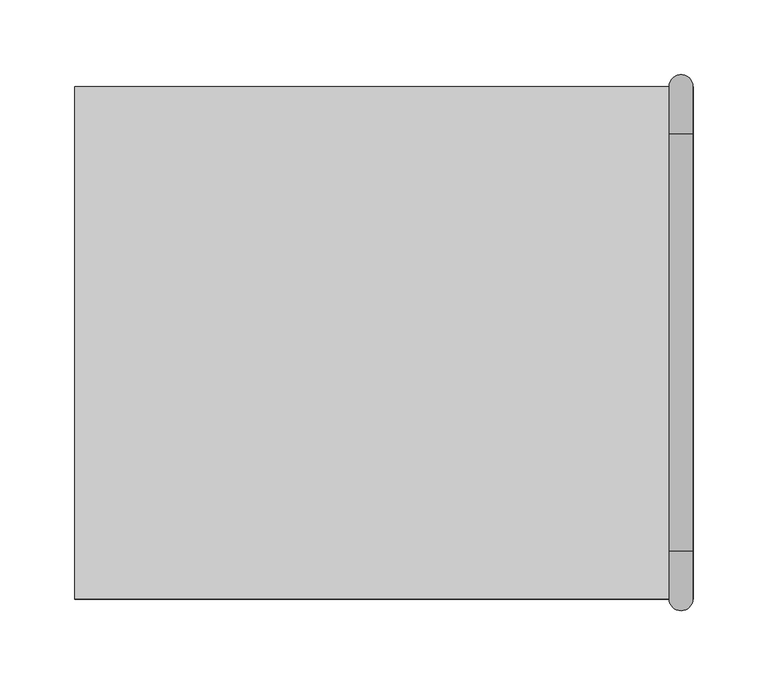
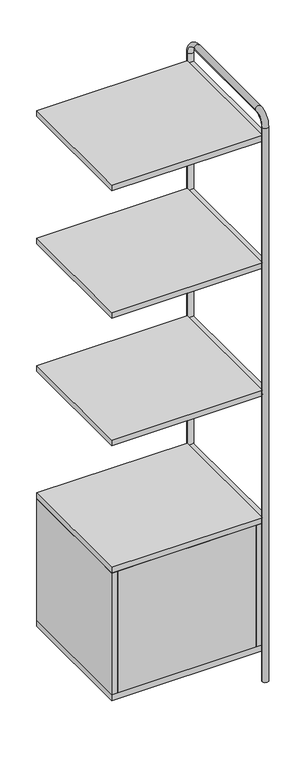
"""IFC4 building model written with IfcOpenShell, lengths in millimetres: furniture geometry, Tubbe Bookcase_Intermediate Unit_4x1 : Tubbe Bookcase_Intermediate Unit_4x1_4x3."""

import ifcopenshell
import ifcopenshell.guid

model = None  # the IFC model being written
_history = None  # IfcOwnerHistory: only IFC2X3 demands one
_inside = {}  # id of a spatial element -> (the spatial element, [elements in it])
_under = {}  # id of a project, library or spatial element -> (it, [spatial elements below it])
_declared = {}  # id of a project -> (the project, [libraries it declares])
_typed = {}  # id of a type object -> (the type object, [elements of that type])
_made_of = {}  # id of a material, layer set ... -> (it, [elements and type objects made of it])


def new_model(schema):
    """Start an empty IFC model of exactly this schema.

    Asked for "IFC4X3", IfcOpenShell would pick the latest addendum, in which some entities
    have other attributes; the version numbers below select the first issue.
    IFC2X3 requires an IfcOwnerHistory on every rooted entity: one is made here for all.
    """
    global model, _history
    if schema == "IFC4X3":
        model = ifcopenshell.file(schema_version=(4, 3, 0, 0))
    else:
        model = ifcopenshell.file(schema=schema)
    _inside.clear()
    _under.clear()
    _declared.clear()
    _typed.clear()
    _made_of.clear()
    _history = None
    if model.schema == "IFC2X3":
        org = make("IfcOrganization", Name="unknown")
        user = make(
            "IfcPersonAndOrganization",
            ThePerson=make("IfcPerson", FamilyName="unknown"),
            TheOrganization=org,
        )
        app = make(
            "IfcApplication",
            ApplicationDeveloper=org,
            Version="unknown",
            ApplicationFullName="unknown",
            ApplicationIdentifier="unknown",
        )
        _history = make(
            "IfcOwnerHistory",
            OwningUser=user,
            OwningApplication=app,
            ChangeAction="ADDED",
            CreationDate=0,
        )
    return model


def make(cls, **values):
    """One entity of the class cls with the attributes given. An attribute that is None is left unset."""
    return model.create_entity(
        cls, **{name: value for name, value in values.items() if value is not None}
    )


def rooted(cls, **values):
    """An entity with a GlobalId (a new one), such as an element, a storey or a relation."""
    return make(cls, GlobalId=ifcopenshell.guid.new(), OwnerHistory=_history, **values)


def si_unit(unit_type, name, prefix=None):
    """IfcSIUnit, for example si_unit("LENGTHUNIT", "METRE", prefix="MILLI")."""
    return make("IfcSIUnit", UnitType=unit_type, Prefix=prefix, Name=name)


def assignment(units):
    """IfcUnitAssignment: the units of a project."""
    return None if units is None else make("IfcUnitAssignment", Units=units)


def point(xyz):
    """IfcCartesianPoint."""
    return None if xyz is None else make("IfcCartesianPoint", Coordinates=xyz)


def direction(xyz):
    """IfcDirection."""
    return None if xyz is None else make("IfcDirection", DirectionRatios=xyz)


def frame(location, z_axis=None, x_axis=None):
    """IfcAxis2Placement3D, a coordinate frame: its origin and axes. An axis left out is left unset."""
    return make(
        "IfcAxis2Placement3D",
        Location=point(location),
        Axis=direction(z_axis),
        RefDirection=direction(x_axis),
    )


def frame_2d(location, x_axis=None):
    """IfcAxis2Placement2D, a coordinate frame in the plane: its origin and x axis."""
    return make(
        "IfcAxis2Placement2D", Location=point(location), RefDirection=direction(x_axis)
    )


def origin():
    """The frame at (0, 0, 0) with its axes left unset."""
    return frame((0.0, 0.0, 0.0))


def place(relative_to, where):
    """IfcLocalPlacement: puts the frame where relative to a parent placement (None: the world)."""
    return make(
        "IfcLocalPlacement", PlacementRelTo=relative_to, RelativePlacement=where
    )


def context(
    kind, dimensions, precision=None, world=None, true_north=None, identifier=None
):
    """IfcGeometricRepresentationContext, for example the 3D "Model" context."""
    return make(
        "IfcGeometricRepresentationContext",
        ContextIdentifier=identifier,
        ContextType=kind,
        CoordinateSpaceDimension=dimensions,
        Precision=precision,
        WorldCoordinateSystem=world,
        TrueNorth=true_north,
    )


def project(units=None, contexts=None):
    """IfcProject with its units and contexts."""
    return rooted(
        "IfcProject",
        Name="project",
        RepresentationContexts=contexts,
        UnitsInContext=assignment(units),
    )


def spatial(cls, under=None, at=None, **own):
    """A site, building, storey or space (cls), placed at a placement, below another one or the project."""
    s = rooted(cls, ObjectPlacement=at, **own)
    if under is not None:
        _under.setdefault(under.id(), (under, []))[1].append(s)
    return s


def polyline(points):
    """IfcPolyline through the points."""
    return make("IfcPolyline", Points=[point(p) for p in points])


def circle_curve(where, radius):
    """IfcCircle in the frame where."""
    return make("IfcCircle", Position=where, Radius=radius)


def ellipse_curve(where, semi_axis1, semi_axis2):
    """IfcEllipse in the frame where."""
    return make(
        "IfcEllipse", Position=where, SemiAxis1=semi_axis1, SemiAxis2=semi_axis2
    )


def trimmed(basis, trim1, trim2, sense, master):
    """IfcTrimmedCurve: the piece of a basis curve between two trims."""
    return make(
        "IfcTrimmedCurve",
        BasisCurve=basis,
        Trim1=trim1,
        Trim2=trim2,
        SenseAgreement=sense,
        MasterRepresentation=master,
    )


def segment(curve, same_sense, transition):
    """IfcCompositeCurveSegment."""
    return make(
        "IfcCompositeCurveSegment",
        Transition=transition,
        SameSense=same_sense,
        ParentCurve=curve,
    )


def composite_curve(segments, self_intersect=None):
    """IfcCompositeCurve: segments joined end to end."""
    return make("IfcCompositeCurve", Segments=segments, SelfIntersect=self_intersect)


def outline(outer, holes=None, kind="AREA"):
    """IfcArbitraryClosedProfileDef: a profile drawn as a closed curve; with holes, ...WithVoids."""
    if holes is None:
        return make("IfcArbitraryClosedProfileDef", ProfileType=kind, OuterCurve=outer)
    return make(
        "IfcArbitraryProfileDefWithVoids",
        ProfileType=kind,
        OuterCurve=outer,
        InnerCurves=holes,
    )


def extrude(swept, where, along, depth):
    """IfcExtrudedAreaSolid: the profile swept, set in the frame where, extruded along a direction by depth."""
    return make(
        "IfcExtrudedAreaSolid",
        SweptArea=swept,
        Position=where,
        ExtrudedDirection=direction(along),
        Depth=depth,
    )


def shape(context_of_items, identifier, shape_type, items):
    """IfcShapeRepresentation: the items that make up one representation, for example the "Body"."""
    return make(
        "IfcShapeRepresentation",
        ContextOfItems=context_of_items,
        RepresentationIdentifier=identifier,
        RepresentationType=shape_type,
        Items=items,
    )


def source(mapping_origin, context_of_items, identifier, shape_type, items):
    """IfcRepresentationMap: a shape defined once, which mapped items show again and again."""
    return make(
        "IfcRepresentationMap",
        MappingOrigin=mapping_origin,
        MappedRepresentation=shape(context_of_items, identifier, shape_type, items),
    )


def transform(
    local_origin,
    x_axis=None,
    y_axis=None,
    z_axis=None,
    scale=None,
    scale2=None,
    scale3=None,
    uniform=True,
):
    """IfcCartesianTransformationOperator3D, or its non-uniform kind. x_axis, y_axis, z_axis: its Axis1, 2, 3."""
    if uniform:
        return make(
            "IfcCartesianTransformationOperator3D",
            Axis1=direction(x_axis),
            Axis2=direction(y_axis),
            LocalOrigin=point(local_origin),
            Scale=scale,
            Axis3=direction(z_axis),
        )
    return make(
        "IfcCartesianTransformationOperator3DnonUniform",
        Axis1=direction(x_axis),
        Axis2=direction(y_axis),
        LocalOrigin=point(local_origin),
        Scale=scale,
        Axis3=direction(z_axis),
        Scale2=scale2,
        Scale3=scale3,
    )


def mapped(mapping_source, mapping_target):
    """IfcMappedItem: shows the shape of a source again, moved by a transform."""
    return make(
        "IfcMappedItem", MappingSource=mapping_source, MappingTarget=mapping_target
    )


def made_of(thing, what):
    """Note that an element or type object is made of a material, layer set ...; save() writes the relation."""
    if what is not None:
        _made_of.setdefault(what.id(), (what, []))[1].append(thing)
    return thing


def element(
    cls,
    number,
    at=None,
    inside=None,
    cuts=None,
    type_object=None,
    material=None,
    context=None,
    identifier="Body",
    shape_type=None,
    held_by="IfcProductDefinitionShape",
    body=None,
    shapes=None,
    **own,
):
    """One element of the class cls, such as IfcWall. Its Tag is "e" and its number.

    at: its placement. inside: the storey or other place that contains it. cuts: it is an
    opening in that element (IfcRelVoidsElement). A single representation is given by context,
    identifier, shape_type and body (its items); several are given by shapes. held_by: the class
    of the entity that holds the representations. save() writes the other relations.
    """
    e = rooted(cls, Tag="e%d" % number, ObjectPlacement=at, **own)
    if body is not None:
        shapes = [shape(context, identifier, shape_type, body)]
    if shapes is not None:
        e.Representation = make(held_by, Representations=shapes)
    if inside is not None:
        _inside.setdefault(inside.id(), (inside, []))[1].append(e)
    if cuts is not None:
        rooted(
            "IfcRelVoidsElement", RelatingBuildingElement=cuts, RelatedOpeningElement=e
        )
    if type_object is not None:
        _typed.setdefault(type_object.id(), (type_object, []))[1].append(e)
    return made_of(e, material)


def aggregate(whole, parts):
    """IfcRelAggregates: a whole, such as a stair, and the parts it consists of."""
    return rooted("IfcRelAggregates", RelatingObject=whole, RelatedObjects=parts)


def save(model, path):
    """Write the relations noted so far, then the file.

    IfcRelAggregates (storeys below a building ...), IfcRelContainedInSpatialStructure (elements
    in a storey), IfcRelDefinesByType, IfcRelAssociatesMaterial and IfcRelDeclares: one each for
    every whole, place, type object, material and project.
    """
    for whole, parts in _under.values():
        aggregate(whole, parts)
    for where, things in _inside.values():
        rooted(
            "IfcRelContainedInSpatialStructure",
            RelatedElements=things,
            RelatingStructure=where,
        )
    for kind, things in _typed.values():
        rooted("IfcRelDefinesByType", RelatedObjects=things, RelatingType=kind)
    for what, things in _made_of.values():
        rooted("IfcRelAssociatesMaterial", RelatedObjects=things, RelatingMaterial=what)
    for by, libraries in _declared.values():
        rooted("IfcRelDeclares", RelatingContext=by, RelatedDefinitions=libraries)
    model.write(path)


def plane_surface(at):
    """IfcPlane: the flat surface through the origin of the frame at, square to its z axis."""
    return make("IfcPlane", Position=at)


def cylinder_surface(at, radius):
    """IfcCylindricalSurface: all points at the distance radius from the z axis of the frame at."""
    return make("IfcCylindricalSurface", Position=at, Radius=radius)


def revolved_surface(curve, axis_point, axis_direction):
    """IfcSurfaceOfRevolution: the curve turned about the line through axis_point along axis_direction."""
    return make(
        "IfcSurfaceOfRevolution",
        SweptCurve=make("IfcArbitraryOpenProfileDef", ProfileType="CURVE", Curve=curve),
        AxisPosition=make("IfcAxis1Placement", Location=point(axis_point), Axis=direction(axis_direction)),
    )


def advanced_brep(points, edges, surfaces, faces):
    """IfcAdvancedBrep: a solid bounded by faces that lie on surfaces and meet in shared edges.

    An edge is (start, end): straight between two places in points (the first is 0);
    or (start, end, curve); or (start, end, curve, False) where it runs against its curve.
    A face is (place in surfaces, loops), or (place, loops, False) where it looks against
    its surface's normal. A loop lists edges by number (the first is 1), with a minus sign
    where the edge is run from its end to its start. The first loop is the outer one.
    """
    corners = [point(p) for p in points]
    vertices = [make("IfcVertexPoint", VertexGeometry=c) for c in corners]
    made = []
    for start, end, *more in edges:
        made.append(
            make(
                "IfcEdgeCurve",
                EdgeStart=vertices[start],
                EdgeEnd=vertices[end],
                EdgeGeometry=more[0] if more else make("IfcPolyline", Points=[corners[start], corners[end]]),
                SameSense=more[1] if len(more) > 1 else True,
            )
        )
    hull = []
    for where, loops, *sense in faces:
        bounds = []
        for j, loop in enumerate(loops):
            ring = [make("IfcOrientedEdge", EdgeElement=made[abs(k) - 1], Orientation=k > 0) for k in loop]
            bounds.append(
                make(
                    "IfcFaceOuterBound" if j == 0 else "IfcFaceBound",
                    Bound=make("IfcEdgeLoop", EdgeList=ring),
                    Orientation=True,
                )
            )
        hull.append(make("IfcAdvancedFace", Bounds=bounds, FaceSurface=surfaces[where], SameSense=sense[0] if sense else True))
    return make("IfcAdvancedBrep", Outer=make("IfcClosedShell", CfsFaces=hull))


def furniture_5e8a3873(model_context):
    return source(origin(), model_context, "Body", "SolidModel", [
        extrude(outline(polyline([(183.0, -171.5), (-183.0, -171.5), (-183.0, -155.5), (183.0, -155.5), (183.0, -171.5)])), frame((0.0, 0.0, 102.0), z_axis=(0.0, 0.0, 1.0), x_axis=(1.0, 0.0, 0.0)), (0.0, 0.0, 1.0), 340.0),
        extrude(outline(polyline([(183.0, 155.5), (-183.0, 155.5), (-183.0, 171.5), (183.0, 171.5), (183.0, 155.5)])), frame((0.0, 0.0, 102.0), z_axis=(0.0, 0.0, 1.0), x_axis=(1.0, 0.0, 0.0)), (0.0, 0.0, 1.0), 340.0),
        extrude(outline(polyline([(199.0, 171.5), (199.0, -171.5), (183.0, -171.5), (183.0, 171.5), (199.0, 171.5)])), frame((0.0, 0.0, 102.0), z_axis=(0.0, 0.0, 1.0), x_axis=(1.0, 0.0, 0.0)), (0.0, 0.0, 1.0), 340.0),
        extrude(outline(polyline([(-183.0, 171.5), (-183.0, -171.5), (-199.0, -171.5), (-199.0, 171.5), (-183.0, 171.5)])), frame((0.0, 0.0, 102.0), z_axis=(0.0, 0.0, 1.0), x_axis=(1.0, 0.0, 0.0)), (0.0, 0.0, 1.0), 340.0),
        extrude(outline(polyline([(199.0, 171.5), (199.0, -171.5), (-199.0, -171.5), (-199.0, 171.5), (199.0, 171.5)])), frame((0.0, 0.0, 1510.0), z_axis=(0.0, 0.0, 1.0), x_axis=(1.0, 0.0, 0.0)), (0.0, 0.0, 1.0), 16.0),
        extrude(outline(polyline([(199.0, 171.5), (199.0, -171.5), (-199.0, -171.5), (-199.0, 171.5), (199.0, 171.5)])), frame((0.0, 0.0, 1154.0), z_axis=(0.0, 0.0, 1.0), x_axis=(1.0, 0.0, 0.0)), (0.0, 0.0, 1.0), 16.0),
        extrude(outline(polyline([(199.0, 171.5), (199.0, -171.5), (-199.0, -171.5), (-199.0, 171.5), (199.0, 171.5)])), frame((0.0, 0.0, 798.0), z_axis=(0.0, 0.0, 1.0), x_axis=(1.0, 0.0, 0.0)), (0.0, 0.0, 1.0), 16.0),
        extrude(outline(polyline([(199.0, 171.5), (199.0, -171.5), (-199.0, -171.5), (-199.0, 171.5), (199.0, 171.5)])), frame((0.0, 0.0, 442.0), z_axis=(0.0, 0.0, 1.0), x_axis=(1.0, 0.0, 0.0)), (0.0, 0.0, 1.0), 16.0),
        extrude(outline(polyline([(199.0, 171.5), (199.0, -171.5), (-199.0, -171.5), (-199.0, 171.5), (199.0, 171.5)])), frame((0.0, 0.0, 86.0), z_axis=(0.0, 0.0, 1.0), x_axis=(1.0, 0.0, 0.0)), (0.0, 0.0, 1.0), 16.0),
        advanced_brep(
        [(198.7794453, 171.5, 0.0), (214.7794453, 171.5, 0.0), (198.7794453, 171.5, 1548.0), (214.7794453, 171.5, 1548.0), (214.7794453, 139.5, 1580.0), (198.7794453, 139.5, 1580.0), (198.7794453, -139.5, 1580.0), (214.7794453, -139.5, 1580.0), (214.7794453, -171.5, 1548.0), (198.7794453, -171.5, 1548.0), (198.7794453, -171.5, 0.0), (214.7794453, -171.5, 0.0)],
        [
            (0, 1, circle_curve(frame((206.7794453, 171.5, 0.0), z_axis=(0.0, 0.0, -1.0), x_axis=(1.0, 0.0, 0.0)), 8.0)),
            (1, 0, circle_curve(frame((206.7794453, 171.5, 0.0), z_axis=(0.0, 0.0, -1.0), x_axis=(1.0, 0.0, 0.0)), 8.0)),
            (0, 2),
            (2, 3, circle_curve(frame((206.7794453, 171.5, 1548.0), z_axis=(0.0, 0.0, -1.0), x_axis=(1.0, 0.0, 0.0)), 8.0)),
            (3, 1),
            (3, 2, circle_curve(frame((206.7794453, 171.5, 1548.0), z_axis=(0.0, 0.0, -1.0), x_axis=(1.0, 0.0, 0.0)), 8.0)),
            (4, 5, circle_curve(frame((206.7794453, 139.5, 1580.0), z_axis=(0.0, -1.0, 0.0), x_axis=(1.0, 0.0, 0.0)), 8.0)),
            (5, 6),
            (6, 7, circle_curve(frame((206.7794453, -139.5, 1580.0), z_axis=(0.0, 1.0, 0.0), x_axis=(1.0, 0.0, 0.0)), 8.0)),
            (7, 4),
            (5, 4, circle_curve(frame((206.7794453, 139.5, 1580.0), z_axis=(0.0, -1.0, 0.0), x_axis=(1.0, 0.0, 0.0)), 8.0)),
            (7, 6, circle_curve(frame((206.7794453, -139.5, 1580.0), z_axis=(0.0, 1.0, 0.0), x_axis=(1.0, 0.0, 0.0)), 8.0)),
            (8, 7, circle_curve(frame((214.7794453, -139.5, 1548.0), z_axis=(-1.0, 0.0, 0.0), x_axis=(0.0, 0.0, 1.0)), 32.0)),
            (6, 9, circle_curve(frame((198.7794453, -139.5, 1548.0), z_axis=(1.0, 0.0, 0.0), x_axis=(0.0, 0.0, 1.0)), 32.0)),
            (9, 8, circle_curve(frame((206.7794453, -171.5, 1548.0), z_axis=(0.0, 0.0, 1.0), x_axis=(1.0, 0.0, 0.0)), 8.0)),
            (8, 9, circle_curve(frame((206.7794453, -171.5, 1548.0), z_axis=(0.0, 0.0, 1.0), x_axis=(1.0, 0.0, 0.0)), 8.0)),
            (10, 11, circle_curve(frame((206.7794453, -171.5, 0.0), z_axis=(0.0, 0.0, -1.0), x_axis=(1.0, 0.0, 0.0)), 8.0)),
            (11, 10, circle_curve(frame((206.7794453, -171.5, 0.0), z_axis=(0.0, 0.0, -1.0), x_axis=(1.0, 0.0, 0.0)), 8.0)),
            (9, 10),
            (11, 8),
            (4, 3, circle_curve(frame((214.7794453, 139.5, 1548.0), z_axis=(-1.0, 0.0, 0.0), x_axis=(0.0, 1.0, 0.0)), 32.0)),
            (2, 5, circle_curve(frame((198.7794453, 139.5, 1548.0), z_axis=(1.0, 0.0, 0.0), x_axis=(0.0, 1.0, 0.0)), 32.0)),
        ],
        [
            plane_surface(frame((207.0, 171.5, 0.0), z_axis=(0.0, 0.0, -1.0), x_axis=(1.0, 0.0, 0.0))),
            cylinder_surface(frame((206.7794453, 171.5, 0.0), z_axis=(0.0, 0.0, -1.0), x_axis=(1.0, 0.0, 0.0)), 8.0),
            cylinder_surface(frame((206.7794453, 139.5, 1580.0), z_axis=(0.0, 1.0, 0.0), x_axis=(1.0, 0.0, 0.0)), 8.0),
            revolved_surface(trimmed(ellipse_curve(frame((206.7794453, -139.5, 1580.0), z_axis=(0.0, 1.0, 0.0), x_axis=(1.0, 0.0, 0.0)), 8.0, 8.0), [point((198.7794453, -139.5, 1580.0))], [point((214.7794453, -139.5, 1580.0))], True, "CARTESIAN"), (207.0, -139.5, 1548.0), (1.0, 0.0, 0.0)),
            revolved_surface(trimmed(ellipse_curve(frame((206.7794453, -139.5, 1580.0), z_axis=(0.0, 1.0, 0.0), x_axis=(1.0, 0.0, 0.0)), 8.0, 8.0), [point((214.7794453, -139.5, 1580.0))], [point((198.7794453, -139.5, 1580.0))], True, "CARTESIAN"), (207.0, -139.5, 1548.0), (1.0, 0.0, 0.0)),
            plane_surface(frame((207.0, -171.5, 0.0), z_axis=(0.0, 0.0, -1.0), x_axis=(1.0, 0.0, 0.0))),
            cylinder_surface(frame((206.7794453, -171.5, 1548.0), z_axis=(0.0, 0.0, 1.0), x_axis=(1.0, 0.0, 0.0)), 8.0),
            revolved_surface(trimmed(ellipse_curve(frame((206.7794453, 171.5, 1548.0), z_axis=(0.0, 0.0, -1.0), x_axis=(1.0, 0.0, 0.0)), 8.0, 8.0), [point((198.7794453, 171.5, 1548.0))], [point((214.7794453, 171.5, 1548.0))], True, "CARTESIAN"), (207.0, 139.5, 1548.0), (1.0, 0.0, 0.0)),
            revolved_surface(trimmed(ellipse_curve(frame((206.7794453, 171.5, 1548.0), z_axis=(0.0, 0.0, -1.0), x_axis=(1.0, 0.0, 0.0)), 8.0, 8.0), [point((214.7794453, 171.5, 1548.0))], [point((198.7794453, 171.5, 1548.0))], True, "CARTESIAN"), (207.0, 139.5, 1548.0), (1.0, 0.0, 0.0)),
        ],
        [
            (0, [[1, 2]]),
            (1, [[-1, 3, 4, 5]]),
            (1, [[-2, -5, 6, -3]]),
            (2, [[7, 8, 9, 10]]),
            (2, [[11, -10, 12, -8]]),
            (3, [[13, -9, 14, 15]]),
            (4, [[-14, -12, -13, 16]]),
            (5, [[17, 18]]),
            (6, [[-15, 19, -18, 20]]),
            (6, [[-16, -20, -17, -19]]),
            (7, [[21, -4, 22, -7]]),
            (8, [[-22, -6, -21, -11]]),
        ],
    ),
        extrude(outline(composite_curve([segment(trimmed(circle_curve(frame_2d((806.0, 207.0)), 8.0), [point((806.0, 199.0))], [point((806.0, 215.0))], False, "CARTESIAN"), True, "CONTINUOUS"), segment(trimmed(circle_curve(frame_2d((806.0, 207.0)), 8.0), [point((806.0, 215.0))], [point((806.0, 199.0))], False, "CARTESIAN"), True, "CONTINUOUS")], self_intersect=False)), frame((0.0, -171.5, 0.0), z_axis=(0.0, 1.0, 0.0), x_axis=(0.0, 0.0, 1.0)), (0.0, 0.0, 1.0), 343.0),
        extrude(outline(composite_curve([segment(trimmed(circle_curve(frame_2d((450.0, 207.0)), 8.0), [point((450.0, 199.0))], [point((450.0, 215.0))], False, "CARTESIAN"), True, "CONTINUOUS"), segment(trimmed(circle_curve(frame_2d((450.0, 207.0)), 8.0), [point((450.0, 215.0))], [point((450.0, 199.0))], False, "CARTESIAN"), True, "CONTINUOUS")], self_intersect=False)), frame((0.0, -171.5, 0.0), z_axis=(0.0, 1.0, 0.0), x_axis=(0.0, 0.0, 1.0)), (0.0, 0.0, 1.0), 343.0),
        extrude(outline(composite_curve([segment(trimmed(circle_curve(frame_2d((94.0, 207.0)), 8.0), [point((94.0, 199.0))], [point((94.0, 215.0))], False, "CARTESIAN"), True, "CONTINUOUS"), segment(trimmed(circle_curve(frame_2d((94.0, 207.0)), 8.0), [point((94.0, 215.0))], [point((94.0, 199.0))], False, "CARTESIAN"), True, "CONTINUOUS")], self_intersect=False)), frame((0.0, -171.5, 0.0), z_axis=(0.0, 1.0, 0.0), x_axis=(0.0, 0.0, 1.0)), (0.0, 0.0, 1.0), 343.0),
        extrude(outline(composite_curve([segment(trimmed(circle_curve(frame_2d((1518.0, 207.0)), 8.0), [point((1518.0, 199.0))], [point((1518.0, 215.0))], False, "CARTESIAN"), True, "CONTINUOUS"), segment(trimmed(circle_curve(frame_2d((1518.0, 207.0)), 8.0), [point((1518.0, 215.0))], [point((1518.0, 199.0))], False, "CARTESIAN"), True, "CONTINUOUS")], self_intersect=False)), frame((0.0, -171.5, 0.0), z_axis=(0.0, 1.0, 0.0), x_axis=(0.0, 0.0, 1.0)), (0.0, 0.0, 1.0), 343.0),
        extrude(outline(composite_curve([segment(trimmed(circle_curve(frame_2d((1162.0, 207.0)), 8.0), [point((1162.0, 199.0))], [point((1162.0, 215.0))], False, "CARTESIAN"), True, "CONTINUOUS"), segment(trimmed(circle_curve(frame_2d((1162.0, 207.0)), 8.0), [point((1162.0, 215.0))], [point((1162.0, 199.0))], False, "CARTESIAN"), True, "CONTINUOUS")], self_intersect=False)), frame((0.0, -171.5, 0.0), z_axis=(0.0, 1.0, 0.0), x_axis=(0.0, 0.0, 1.0)), (0.0, 0.0, 1.0), 343.0),
    ])


if __name__ == "__main__":
    model = new_model("IFC4")
    model_context = context("Model", 3, world=origin())
    ifc_project = project(units=[si_unit("LENGTHUNIT", "METRE", prefix="MILLI")], contexts=[model_context])
    site = spatial("IfcSite", under=ifc_project)
    building = spatial("IfcBuilding", under=site)
    placement = place(None, origin())
    furniture_shape = furniture_5e8a3873(model_context)
    element("IfcFurniture", 1, ObjectType="Tubbe Bookcase_Intermediate Unit_4x1 : Tubbe Bookcase_Intermediate Unit_4x1_4x3", at=placement, inside=building, context=model_context, shape_type="MappedRepresentation", body=[
        mapped(furniture_shape, transform((0.0, 0.0, 0.0), x_axis=(1.0, 0.0, 0.0), y_axis=(0.0, 1.0, 0.0), z_axis=(0.0, 0.0, 1.0))),
    ])
    save(model, "model.ifc")
